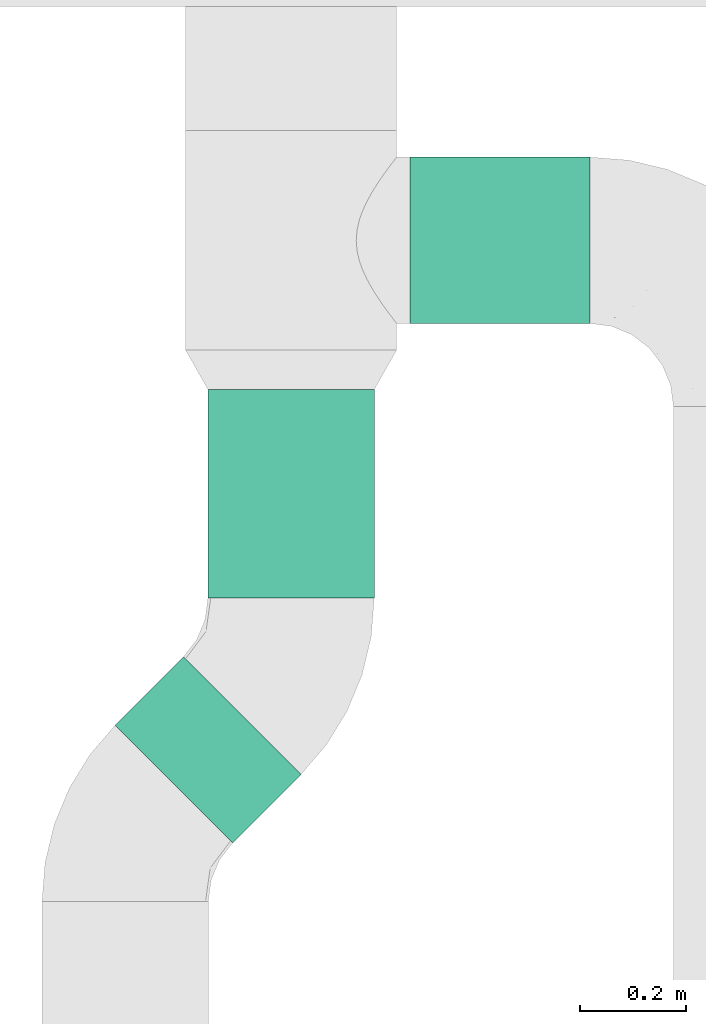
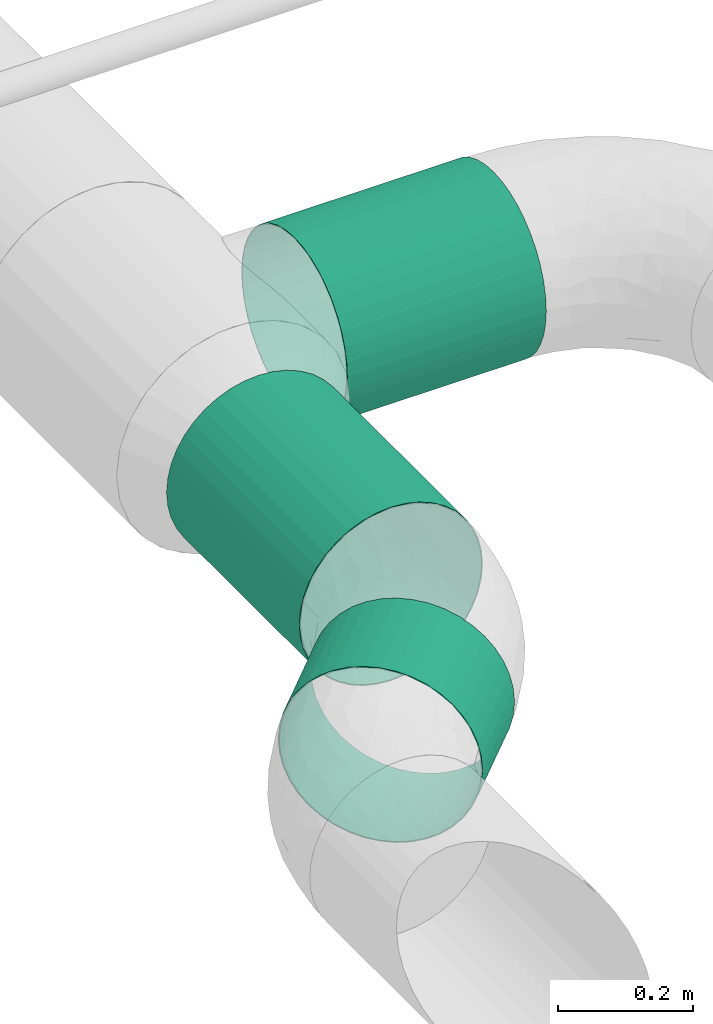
# One storey, part 22 of 63: 3 flow segments.
"""IFC2X3 building model written with IfcOpenShell, lengths in millimetres."""

from ifc_helpers import new_model, entity, si_unit, converted_unit, derived_unit, direction, frame, origin_with_axes, origin_2d_with_axis, place, context, subcontext, project, spatial, hollow_circle, extrude, source, transform, mapped, type_object, element, save


model = new_model("IFC2X3")

# Units and contexts
model_context = context("Model", 3, precision=0.01, world=frame((0.0, 4.29681676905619e-09, 0.0)), true_north=direction((4.01073788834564e-13, 1.0)))
plan_context = context("Plan", 3, precision=0.01, world=frame((0.0, 4.29681676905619e-09, 0.0)), true_north=direction((4.01073788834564e-13, 1.0)))
body_context = subcontext(model_context, "Body", "Model", "MODEL_VIEW")
ifc_project = project(units=[converted_unit("PLANEANGLEUNIT", "DEGREE", entity("IfcPositiveLengthMeasure", 0.0174532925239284), si_unit("PLANEANGLEUNIT", "RADIAN"), dimensions=[0, 0, 0, 0, 0, 0, 0]), si_unit("AREAUNIT", "SQUARE_METRE"), si_unit("LENGTHUNIT", "METRE", prefix="MILLI"), si_unit("MASSUNIT", "GRAM", prefix="KILO"), si_unit("POWERUNIT", "WATT"), si_unit("PRESSUREUNIT", "PASCAL"), si_unit("FORCEUNIT", "NEWTON", prefix="KILO"), si_unit("ELECTRICVOLTAGEUNIT", "VOLT"), si_unit("ELECTRICCURRENTUNIT", "AMPERE"), si_unit("THERMODYNAMICTEMPERATUREUNIT", "DEGREE_CELSIUS"), si_unit("TIMEUNIT", "SECOND"), si_unit("VOLUMEUNIT", "CUBIC_METRE"), derived_unit("LINEARVELOCITYUNIT", [(si_unit("LENGTHUNIT", "METRE"), 1), (si_unit("TIMEUNIT", "SECOND"), -1)]), derived_unit("VOLUMETRICFLOWRATEUNIT", [(si_unit("VOLUMEUNIT", "CUBIC_METRE"), 1), (si_unit("TIMEUNIT", "SECOND"), -1)]), derived_unit("THERMALTRANSMITTANCEUNIT", [(si_unit("POWERUNIT", "WATT"), 1), (si_unit("THERMODYNAMICTEMPERATUREUNIT", "KELVIN"), -1), (si_unit("AREAUNIT", "SQUARE_METRE"), -1)]), derived_unit("SOUNDPRESSUREUNIT", [(si_unit("PRESSUREUNIT", "PASCAL"), 1)])], contexts=[model_context, plan_context])

# Site, building, storey
site_placement = place(None, frame((0.0, -4.29681676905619e-09, 0.0), z_axis=(0.0, 0.0, 1.0), x_axis=(1.0, 0.0, 0.0)))
site = spatial("IfcSite", under=ifc_project, at=site_placement, CompositionType="ELEMENT")
building_placement = place(site_placement, frame((0.0, 4.29681676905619e-09, 0.0), z_axis=(0.0, 0.0, 1.0), x_axis=(1.0, 0.0, 0.0)))
building = spatial("IfcBuilding", under=site, at=building_placement, Name="mc-building", CompositionType="ELEMENT")
storey_placement = place(building_placement, frame((0.0, 0.0, 210900.0), z_axis=(0.0, 0.0, 1.0), x_axis=(1.0, 0.0, 0.0)))
storey = spatial("IfcBuildingStorey", under=building, at=storey_placement, Name="Nivå F", CompositionType="ELEMENT", Elevation=210900.0)

# Flow segments
duct_segment_type = type_object("IfcDuctSegmentType", Name="Sirkulær kanal", PredefinedType="RIGIDSEGMENT")
shared_shape_1 = source(origin_with_axes(), body_context, "Body", "SweptSolid", [
    extrude(hollow_circle(Radius=157.5, WallThickness=2.0, at=origin_2d_with_axis()), frame((0.0, 0.0, 0.0), z_axis=(1.0, 0.0, 0.0), x_axis=(0.0, 1.0, 0.0)), (0.0, 0.0, 1.0), 341.4),
])
flow_segment_1_placement = place(storey_placement, frame((528938.30719, 452014.68542, 4200.0), z_axis=(0.0, 0.0, 1.0), x_axis=(1.0, 0.0, 0.0)))
element("IfcFlowSegment", 1, at=flow_segment_1_placement, inside=storey, type_object=duct_segment_type, Name="Sirkulær kanal", context=body_context, shape_type="MappedRepresentation", body=[
    mapped(shared_shape_1, transform((0.0, 0.0, 0.0), scale=1.0)),
])
shared_shape_2 = source(origin_with_axes(), body_context, "Body", "SweptSolid", [
    extrude(hollow_circle(Radius=157.5, WallThickness=2.0, at=origin_2d_with_axis()), frame((0.0, 0.0, 0.0), z_axis=(1.0, 0.0, 0.0), x_axis=(0.0, 1.0, 0.0)), (0.0, 0.0, 1.0), 394.5),
])
flow_segment_2_placement = place(storey_placement, frame((528713.30719, 451732.18542, 4200.0), z_axis=(0.0, 0.0, 1.0), x_axis=(0.0, -1.0, 0.0)))
element("IfcFlowSegment", 2, at=flow_segment_2_placement, inside=storey, type_object=duct_segment_type, Name="Sirkulær kanal", context=body_context, shape_type="MappedRepresentation", body=[
    mapped(shared_shape_2, transform((0.0, 0.0, 0.0), scale=1.0)),
])
shared_shape_3 = source(origin_with_axes(), body_context, "Body", "SweptSolid", [
    extrude(hollow_circle(Radius=157.5, WallThickness=2.0, at=origin_2d_with_axis()), frame((0.0, 0.0, 0.0), z_axis=(1.0, 0.0, 0.0), x_axis=(0.0, 1.0, 0.0)), (0.0, 0.0, 1.0), 183.5),
])
flow_segment_3_placement = place(storey_placement, frame((528621.04583, 451114.92406, 4200.0), z_axis=(0.0, 0.0, 1.0), x_axis=(-0.707106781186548, -0.707106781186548, 0.0)))
element("IfcFlowSegment", 3, at=flow_segment_3_placement, inside=storey, type_object=duct_segment_type, Name="Sirkulær kanal", context=body_context, shape_type="MappedRepresentation", body=[
    mapped(shared_shape_3, transform((0.0, 0.0, 0.0), scale=1.0)),
])

save(model, "model.ifc")
